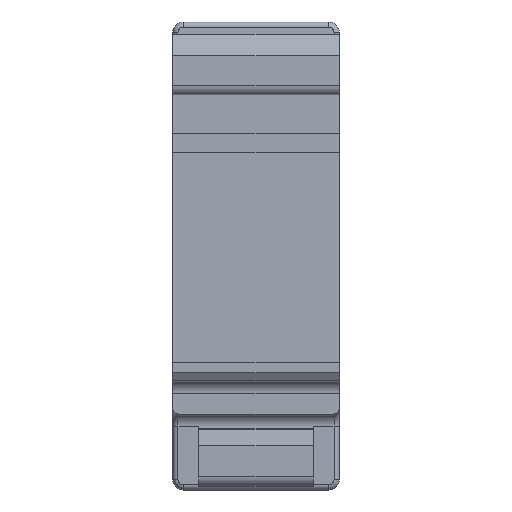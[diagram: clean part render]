
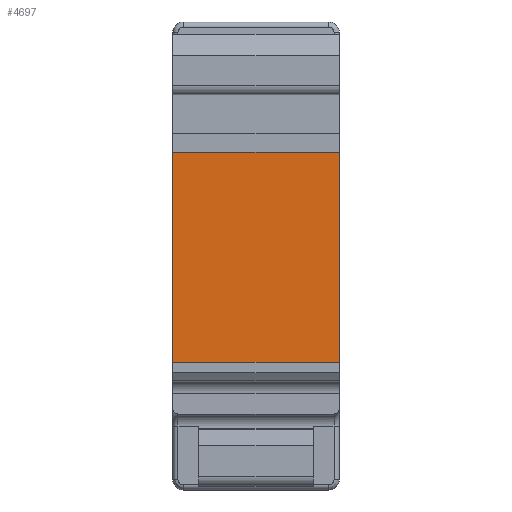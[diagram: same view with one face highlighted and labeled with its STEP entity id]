
A CAD part, front view. The second image highlights one B-rep face of the part: STEP entity #4697.
In plain terms, the highlighted planar face has unit normal (0, -1, 0).
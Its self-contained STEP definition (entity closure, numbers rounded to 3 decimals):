
#1303=DIRECTION('',(0.,0.,1.));
#1304=VECTOR('',#1303,20.157);
#1305=CARTESIAN_POINT('',(23.298,4.9,-10.197));
#1306=LINE('',#1305,#1304);
#1412=DIRECTION('',(0.,0.,1.));
#1413=VECTOR('',#1412,20.157);
#1414=CARTESIAN_POINT('',(39.298,4.9,-10.197));
#1415=LINE('',#1414,#1413);
#1416=DIRECTION('',(-1.,0.,0.));
#1417=VECTOR('',#1416,16.);
#1418=CARTESIAN_POINT('',(39.298,4.9,-10.197));
#1419=LINE('',#1418,#1417);
#1424=DIRECTION('',(-1.,0.,0.));
#1425=VECTOR('',#1424,16.);
#1426=CARTESIAN_POINT('',(39.298,4.9,9.959));
#1427=LINE('',#1426,#1425);
#2601=CARTESIAN_POINT('',(23.298,4.9,-10.197));
#2602=VERTEX_POINT('',#2601);
#2603=CARTESIAN_POINT('',(23.298,4.9,9.959));
#2604=VERTEX_POINT('',#2603);
#2641=CARTESIAN_POINT('',(39.298,4.9,-10.197));
#2642=VERTEX_POINT('',#2641);
#2643=CARTESIAN_POINT('',(39.298,4.9,9.959));
#2644=VERTEX_POINT('',#2643);
#4685=CARTESIAN_POINT('',(53.098,4.9,-10.197));
#4686=DIRECTION('',(0.,-1.,0.));
#4687=DIRECTION('',(0.,0.,1.));
#4688=AXIS2_PLACEMENT_3D('',#4685,#4686,#4687);
#4689=PLANE('',#4688);
#4690=ORIENTED_EDGE('',*,*,#4067,.F.);
#4691=ORIENTED_EDGE('',*,*,#4680,.T.);
#4692=ORIENTED_EDGE('',*,*,#4551,.T.);
#4694=ORIENTED_EDGE('',*,*,#4693,.F.);
#4695=EDGE_LOOP('',(#4690,#4691,#4692,#4694));
#4696=FACE_OUTER_BOUND('',#4695,.F.);
#4067=EDGE_CURVE('',#2642,#2644,#1415,.T.);
#4551=EDGE_CURVE('',#2602,#2604,#1306,.T.);
#4680=EDGE_CURVE('',#2642,#2602,#1419,.T.);
#4693=EDGE_CURVE('',#2644,#2604,#1427,.T.);
#4697=ADVANCED_FACE('',(#4696),#4689,.T.);
